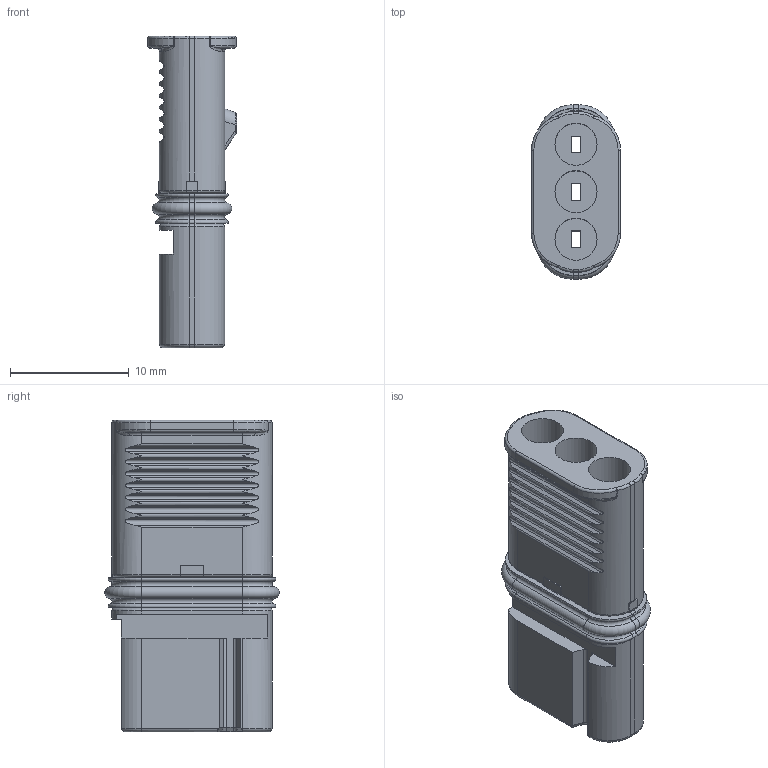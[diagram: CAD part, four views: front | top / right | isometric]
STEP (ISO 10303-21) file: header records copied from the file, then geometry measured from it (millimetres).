
FILE_DESCRIPTION(/* description */ ('CATIA V5 STEP'),/* implementation_level */ '2;1');
FILE_NAME(/* name */ 'HK12-3S-A.step',/* time_stamp */ '2025-04-20T03:18:58-05:00',/* author */ (''),/* organization */ ('Corsa Technic, LLC'),/* preprocessor_version */ 'ST-DEVELOPER v20.1',/* originating_system */ 'Autodesk Translation Framework v14.4.0.0',/* authorisation */ '3D design STEP models are provided for reference only. STEP models DO NOT provide accurate tolerance information and the model may not be constructed to the nominal nor the manufacturing-optimized version of the design. User assumes all risks from use of these models. Corsa Technic, LLC makes no representation or warranty (expressed or implied) with respect to the STEP models, including but not limited to the accuracy or completeness of product dimensions or any other technical specifications contained in or accompanying the STEP models, non-infringement of third party rights, and quality, suitability, fitness for purpose or title.');
FILE_SCHEMA (('AUTOMOTIVE_DESIGN { 1 0 10303 214 3 1 1 }'));
Length unit declared in the file: millimetre
Products named in the file (1): Part2
Bounding box: 7.5 x 14.7 x 26.25 mm (x, y, z)
Volume: 1349.4 mm3; surface area: 1844.8 mm2
Topology: 1 solids, 1 shells, 348 faces, 903 edges, 560 vertices
Faces by surface type: plane 129, cylinder 99, bspline 62, torus 56, cone 2
Full cylindrical faces by diameter (mm): 3.55 x3
Entity records: 11694 total; most frequent: CARTESIAN_POINT 3462, ORIENTED_EDGE 1794, DIRECTION 1596, EDGE_CURVE 897, AXIS2_PLACEMENT_3D 574, VERTEX_POINT 560, LINE 448, VECTOR 448
